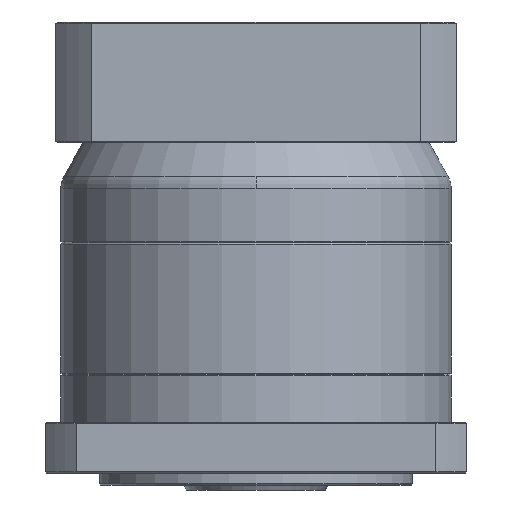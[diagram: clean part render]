
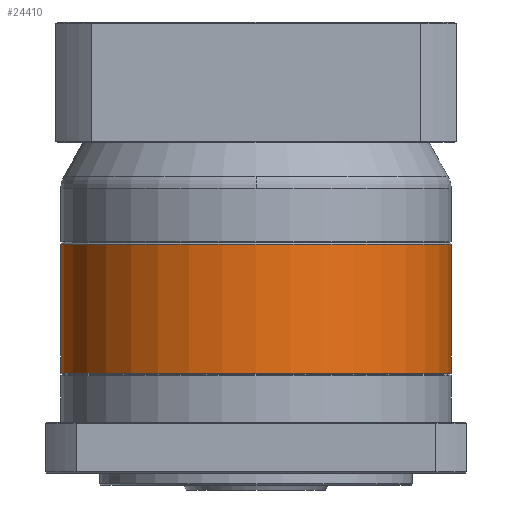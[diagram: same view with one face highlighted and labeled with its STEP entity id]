
A CAD part, front view. The second image highlights one B-rep face of the part: STEP entity #24410.
In plain terms, the highlighted cylindrical face has radius 81 mm (diameter 162 mm), a partial arc.
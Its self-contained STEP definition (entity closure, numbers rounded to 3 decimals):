
#3792 = DIRECTION ( 'NONE',  ( -1., 0., 0. ) ) ;
#5435 = VERTEX_POINT ( 'NONE', #93880 ) ;
#10372 = ORIENTED_EDGE ( 'NONE', *, *, #28984, .F. ) ;
#11074 = FACE_OUTER_BOUND ( 'NONE', #73336, .T. ) ;
#12458 = DIRECTION ( 'NONE',  ( 0., 0., -1. ) ) ;
#12964 = EDGE_CURVE ( 'NONE', #101447, #88354, #120515, .T. ) ;
#13019 = CARTESIAN_POINT ( 'NONE',  ( -52.943, 38.626, -76.293 ) ) ;
#13051 = DIRECTION ( 'NONE',  ( 0., 0., 1. ) ) ;
#14140 = VECTOR ( 'NONE', #110610, 1000. ) ;
#21716 = CARTESIAN_POINT ( 'NONE',  ( -52.943, 119.626, -129.793 ) ) ;
#22288 = ORIENTED_EDGE ( 'NONE', *, *, #61584, .T. ) ;
#24410 = ADVANCED_FACE ( 'NONE', ( #11074 ), #66759, .T. ) ;
#28984 = EDGE_CURVE ( 'NONE', #5435, #101447, #66853, .T. ) ;
#31553 = ORIENTED_EDGE ( 'NONE', *, *, #117913, .F. ) ;
#31655 = CARTESIAN_POINT ( 'NONE',  ( 28.057, 119.626, -75.793 ) ) ;
#33895 = CARTESIAN_POINT ( 'NONE',  ( -133.943, 119.626, -75.793 ) ) ;
#45083 = DIRECTION ( 'NONE',  ( 0., 1., 0. ) ) ;
#57028 = CARTESIAN_POINT ( 'NONE',  ( -52.943, 119.626, -76.293 ) ) ;
#57441 = DIRECTION ( 'NONE',  ( 0., 1., 0. ) ) ;
#59218 = EDGE_CURVE ( 'NONE', #5435, #67115, #121039, .T. ) ;
#59643 = CIRCLE ( 'NONE', #62781, 81. ) ;
#61584 = EDGE_CURVE ( 'NONE', #67115, #92370, #59643, .T. ) ;
#62781 = AXIS2_PLACEMENT_3D ( 'NONE', #21716, #13051, #122258 ) ;
#66568 = DIRECTION ( 'NONE',  ( 0., 0., 1. ) ) ;
#66759 = CYLINDRICAL_SURFACE ( 'NONE', #93370, 81. ) ;
#66853 = CIRCLE ( 'NONE', #85821, 81. ) ;
#67115 = VERTEX_POINT ( 'NONE', #117896 ) ;
#73336 = EDGE_LOOP ( 'NONE', ( #31553, #99798, #10372, #103409, #22288 ) ) ;
#76784 = CARTESIAN_POINT ( 'NONE',  ( -52.943, 119.626, -76.293 ) ) ;
#82750 = CARTESIAN_POINT ( 'NONE',  ( -52.943, 119.626, -75.793 ) ) ;
#85821 = AXIS2_PLACEMENT_3D ( 'NONE', #76784, #96283, #45083 ) ;
#88354 = VERTEX_POINT ( 'NONE', #127835 ) ;
#92370 = VERTEX_POINT ( 'NONE', #97731 ) ;
#93258 = LINE ( 'NONE', #31655, #14140 ) ;
#93370 = AXIS2_PLACEMENT_3D ( 'NONE', #82750, #12458, #3792 ) ;
#93880 = CARTESIAN_POINT ( 'NONE',  ( -133.943, 119.626, -76.293 ) ) ;
#96283 = DIRECTION ( 'NONE',  ( 0., 0., 1. ) ) ;
#97731 = CARTESIAN_POINT ( 'NONE',  ( 28.057, 119.626, -129.793 ) ) ;
#99798 = ORIENTED_EDGE ( 'NONE', *, *, #12964, .F. ) ;
#100846 = AXIS2_PLACEMENT_3D ( 'NONE', #57028, #66568, #57441 ) ;
#101447 = VERTEX_POINT ( 'NONE', #13019 ) ;
#103409 = ORIENTED_EDGE ( 'NONE', *, *, #59218, .T. ) ;
#110610 = DIRECTION ( 'NONE',  ( 0., 0., -1. ) ) ;
#112394 = DIRECTION ( 'NONE',  ( 0., 0., -1. ) ) ;
#116479 = VECTOR ( 'NONE', #112394, 1000. ) ;
#117896 = CARTESIAN_POINT ( 'NONE',  ( -133.943, 119.626, -129.793 ) ) ;
#117913 = EDGE_CURVE ( 'NONE', #88354, #92370, #93258, .T. ) ;
#120515 = CIRCLE ( 'NONE', #100846, 81. ) ;
#121039 = LINE ( 'NONE', #33895, #116479 ) ;
#122258 = DIRECTION ( 'NONE',  ( -1., 0., 0. ) ) ;
#127835 = CARTESIAN_POINT ( 'NONE',  ( 28.057, 119.626, -76.293 ) ) ;
